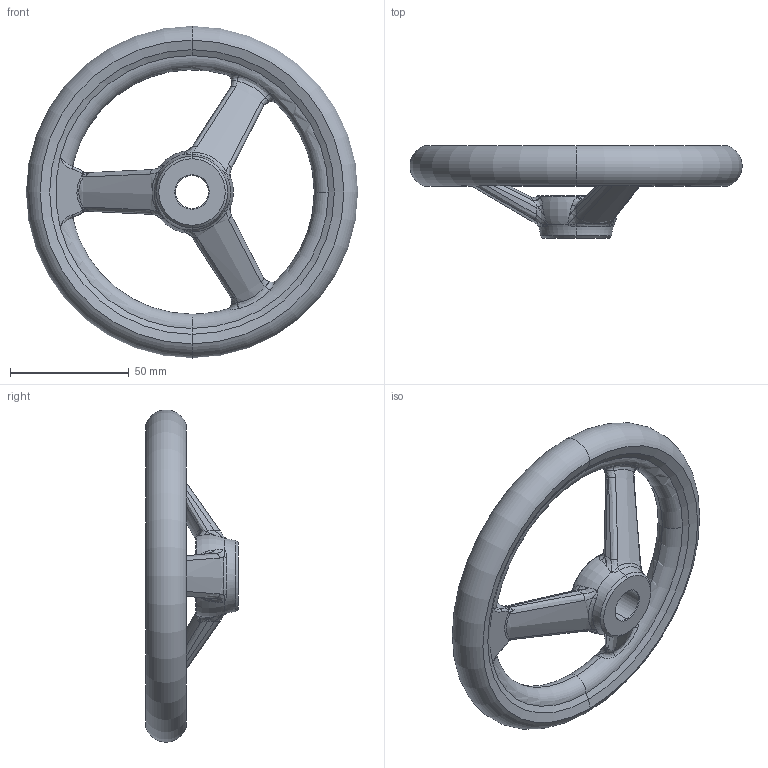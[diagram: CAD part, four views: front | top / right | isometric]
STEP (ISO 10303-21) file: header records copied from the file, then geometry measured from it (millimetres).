
FILE_DESCRIPTION (( 'STEP AP203' ), '1' );
FILE_NAME ('din950_a4_140x14.step', '2015-02-02T09:39:25', ( 'Magnus' ), ( 'Microsoft' ), 'SwSTEP 2.0', 'SolidWorks 2014', '' );
FILE_SCHEMA (( 'CONFIG_CONTROL_DESIGN' ));
Length unit declared in the file: millimetre
Products named in the file (1): din950_a4_140x14
Bounding box: 139.94 x 39 x 139.94 mm (x, y, z)
Volume: 116077.5 mm3; surface area: 29592.9 mm2
Topology: 1 solids, 1 shells, 195 faces, 480 edges, 258 vertices
Faces by surface type: bspline 140, torus 22, cone 16, plane 10, cylinder 7
Entity records: 10566 total; most frequent: CARTESIAN_POINT 7042, ORIENTED_EDGE 914, DIRECTION 466, EDGE_CURVE 457, B_SPLINE_CURVE_WITH_KNOTS 265, VERTEX_POINT 258, AXIS2_PLACEMENT_3D 222, EDGE_LOOP 197
